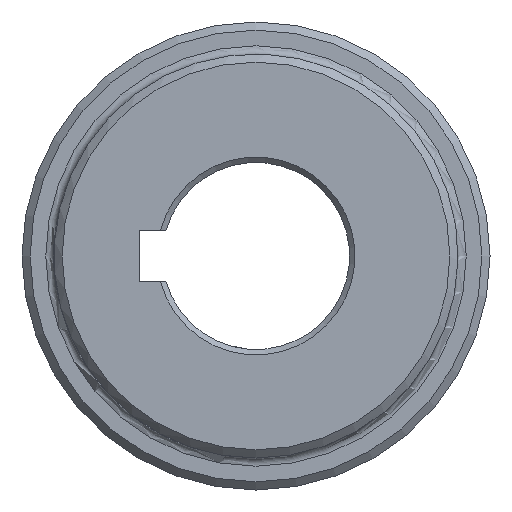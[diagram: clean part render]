
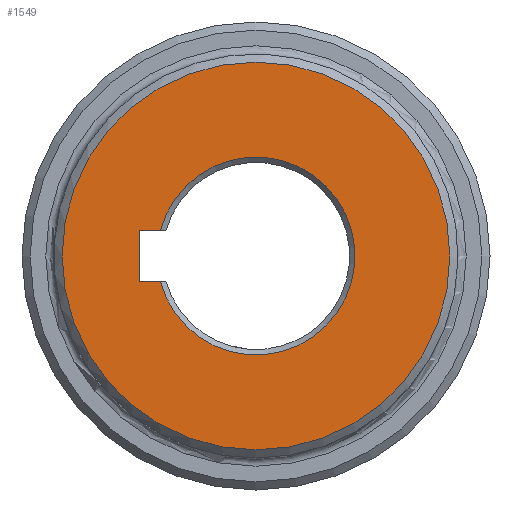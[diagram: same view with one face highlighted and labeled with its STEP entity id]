
A CAD part, left-side view. The second image highlights one B-rep face of the part: STEP entity #1549.
In plain terms, the highlighted planar face has unit normal (-1, 0, 0).
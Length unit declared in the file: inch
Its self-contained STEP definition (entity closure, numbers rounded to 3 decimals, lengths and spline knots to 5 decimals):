
#12 = CARTESIAN_POINT ( 'NONE',  ( 0., 0., -1.425 ) ) ;
#29 = CIRCLE ( 'NONE', #1031, 0.72775 ) ;
#31 = CARTESIAN_POINT ( 'NONE',  ( 0., 0.85425, -0.1875 ) ) ;
#194 = DIRECTION ( 'NONE',  ( 0., -1., 0. ) ) ;
#217 = EDGE_CURVE ( 'NONE', #1502, #1502, #520, .T. ) ;
#218 = CARTESIAN_POINT ( 'NONE',  ( 0., 0., 0. ) ) ;
#420 = VERTEX_POINT ( 'NONE', #847 ) ;
#496 = LINE ( 'NONE', #1199, #1112 ) ;
#520 = CIRCLE ( 'NONE', #902, 1.425 ) ;
#603 = ORIENTED_EDGE ( 'NONE', *, *, #2070, .F. ) ;
#620 = VECTOR ( 'NONE', #1832, 39.37008 ) ;
#663 = EDGE_CURVE ( 'NONE', #1784, #420, #496, .T. ) ;
#697 = DIRECTION ( 'NONE',  ( 1., 0., 0. ) ) ;
#708 = ORIENTED_EDGE ( 'NONE', *, *, #1965, .T. ) ;
#845 = DIRECTION ( 'NONE',  ( -1., 0., 0. ) ) ;
#847 = CARTESIAN_POINT ( 'NONE',  ( 0., 0.85425, 0.1875 ) ) ;
#902 = AXIS2_PLACEMENT_3D ( 'NONE', #218, #845, #1181 ) ;
#969 = ORIENTED_EDGE ( 'NONE', *, *, #217, .T. ) ;
#1027 = PLANE ( 'NONE',  #2259 ) ;
#1031 = AXIS2_PLACEMENT_3D ( 'NONE', #1713, #697, #2038 ) ;
#1043 = ORIENTED_EDGE ( 'NONE', *, *, #1293, .F. ) ;
#1108 = CARTESIAN_POINT ( 'NONE',  ( 0., 0.85425, -0.1875 ) ) ;
#1112 = VECTOR ( 'NONE', #1973, 39.37008 ) ;
#1171 = FACE_OUTER_BOUND ( 'NONE', #1897, .T. ) ;
#1181 = DIRECTION ( 'NONE',  ( 0., 0., -1. ) ) ;
#1199 = CARTESIAN_POINT ( 'NONE',  ( 0., 0., 0.1875 ) ) ;
#1215 = LINE ( 'NONE', #1108, #620 ) ;
#1293 = EDGE_CURVE ( 'NONE', #2237, #1320, #2085, .T. ) ;
#1319 = CARTESIAN_POINT ( 'NONE',  ( 0., 0., 0. ) ) ;
#1320 = VERTEX_POINT ( 'NONE', #2014 ) ;
#1476 = DIRECTION ( 'NONE',  ( 0., 0., -1. ) ) ;
#1502 = VERTEX_POINT ( 'NONE', #12 ) ;
#1549 = ADVANCED_FACE ( 'NONE', ( #1171, #2303 ), #1027, .F. ) ;
#1659 = CARTESIAN_POINT ( 'NONE',  ( 0., 0.70318, 0.1875 ) ) ;
#1713 = CARTESIAN_POINT ( 'NONE',  ( 0., 0., 0. ) ) ;
#1767 = ORIENTED_EDGE ( 'NONE', *, *, #663, .F. ) ;
#1784 = VERTEX_POINT ( 'NONE', #1659 ) ;
#1832 = DIRECTION ( 'NONE',  ( 0., 0., -1. ) ) ;
#1847 = CARTESIAN_POINT ( 'NONE',  ( 0., 0., -0.1875 ) ) ;
#1897 = EDGE_LOOP ( 'NONE', ( #969 ) ) ;
#1965 = EDGE_CURVE ( 'NONE', #1784, #1320, #29, .T. ) ;
#1973 = DIRECTION ( 'NONE',  ( 0., 1., 0. ) ) ;
#2014 = CARTESIAN_POINT ( 'NONE',  ( 0., 0.70318, -0.1875 ) ) ;
#2038 = DIRECTION ( 'NONE',  ( 0., 0., -1. ) ) ;
#2070 = EDGE_CURVE ( 'NONE', #420, #2237, #1215, .T. ) ;
#2078 = EDGE_LOOP ( 'NONE', ( #1767, #708, #1043, #603 ) ) ;
#2085 = LINE ( 'NONE', #1847, #2266 ) ;
#2168 = DIRECTION ( 'NONE',  ( 1., 0., 0. ) ) ;
#2237 = VERTEX_POINT ( 'NONE', #31 ) ;
#2259 = AXIS2_PLACEMENT_3D ( 'NONE', #1319, #2168, #1476 ) ;
#2266 = VECTOR ( 'NONE', #194, 39.37008 ) ;
#2303 = FACE_BOUND ( 'NONE', #2078, .T. ) ;
